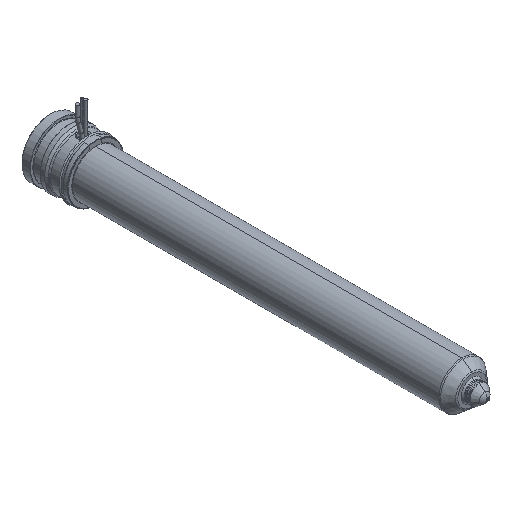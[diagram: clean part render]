
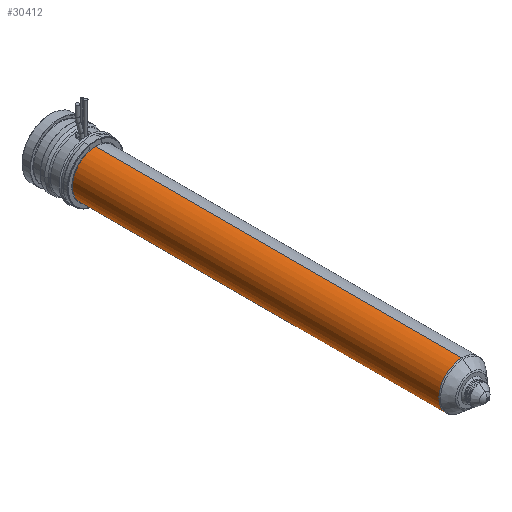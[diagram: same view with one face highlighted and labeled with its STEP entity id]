
A CAD part, isometric view. The second image highlights one B-rep face of the part: STEP entity #30412.
In plain terms, the highlighted cylindrical face has radius 12 mm (diameter 24 mm), a partial arc.
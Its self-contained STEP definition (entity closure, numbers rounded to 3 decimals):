
#29805=CARTESIAN_POINT('',(0.,-213.736,0.));
#29806=DIRECTION('',(0.,-1.,0.));
#29807=DIRECTION('',(0.,0.,1.));
#29808=AXIS2_PLACEMENT_3D('',#29805,#29806,#29807);
#29813=CARTESIAN_POINT('',(0.,-24.,0.));
#29814=DIRECTION('',(0.,1.,0.));
#29815=DIRECTION('',(0.,0.,-1.));
#29816=AXIS2_PLACEMENT_3D('',#29813,#29814,#29815);
#29821=DIRECTION('',(0.,1.,0.));
#29822=VECTOR('',#29821,189.736);
#29823=CARTESIAN_POINT('',(0.,-213.736,12.));
#29824=LINE('',#29823,#29822);
#29836=DIRECTION('',(0.,1.,0.));
#29837=VECTOR('',#29836,189.736);
#29838=CARTESIAN_POINT('',(0.,-213.736,-12.));
#29839=LINE('',#29838,#29837);
#30017=CARTESIAN_POINT('',(0.,-213.736,12.));
#30018=CARTESIAN_POINT('',(0.,-24.,12.));
#30019=VERTEX_POINT('',#30017);
#30020=VERTEX_POINT('',#30018);
#30021=CARTESIAN_POINT('',(0.,-213.736,-12.));
#30022=CARTESIAN_POINT('',(0.,-24.,-12.));
#30023=VERTEX_POINT('',#30021);
#30024=VERTEX_POINT('',#30022);
#30398=CARTESIAN_POINT('',(0.,-9.625,0.));
#30399=DIRECTION('',(0.,-1.,0.));
#30400=DIRECTION('',(0.,0.,1.));
#30401=AXIS2_PLACEMENT_3D('',#30398,#30399,#30400);
#30402=CYLINDRICAL_SURFACE('',#30401,12.);
#30404=ORIENTED_EDGE('',*,*,#30403,.F.);
#30405=ORIENTED_EDGE('',*,*,#30393,.T.);
#30407=ORIENTED_EDGE('',*,*,#30406,.T.);
#30409=ORIENTED_EDGE('',*,*,#30408,.T.);
#30410=EDGE_LOOP('',(#30404,#30405,#30407,#30409));
#30411=FACE_OUTER_BOUND('',#30410,.F.);
#30412=ADVANCED_FACE('',(#30411),#30402,.T.);
#29809=CIRCLE('',#29808,12.);
#29817=CIRCLE('',#29816,12.);
#30393=EDGE_CURVE('',#30019,#30023,#29809,.T.);
#30403=EDGE_CURVE('',#30019,#30020,#29824,.T.);
#30406=EDGE_CURVE('',#30023,#30024,#29839,.T.);
#30408=EDGE_CURVE('',#30024,#30020,#29817,.T.);
